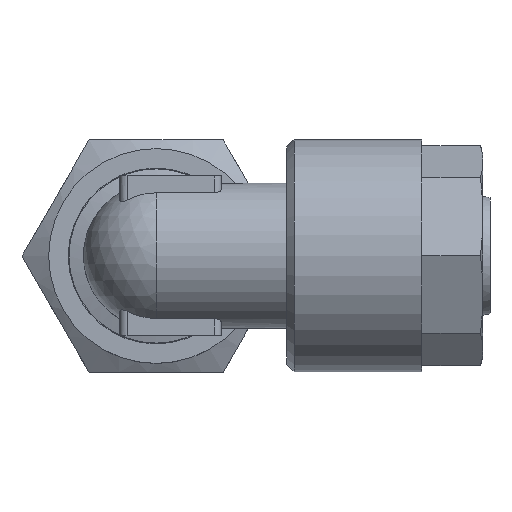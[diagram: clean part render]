
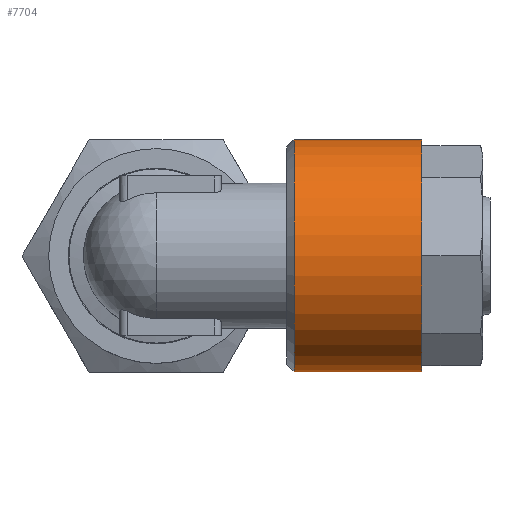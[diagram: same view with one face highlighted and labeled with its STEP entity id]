
A CAD part, top view. The second image highlights one B-rep face of the part: STEP entity #7704.
In plain terms, the highlighted cylindrical face has radius 8 mm (diameter 16 mm), a full revolution.
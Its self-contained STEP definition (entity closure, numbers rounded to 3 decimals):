
#2307=CYLINDRICAL_SURFACE('',#7482,8.);
#2428=ORIENTED_EDGE('',*,*,#3007,.F.);
#2429=ORIENTED_EDGE('',*,*,#3008,.T.);
#2753=CIRCLE('',#7481,8.);
#2754=CIRCLE('',#7483,8.);
#2847=VERTEX_POINT('',#4061);
#2848=VERTEX_POINT('',#4064);
#3007=EDGE_CURVE('',#2847,#2847,#2753,.T.);
#3008=EDGE_CURVE('',#2848,#2848,#2754,.T.);
#3191=EDGE_LOOP('',(#2428));
#3192=EDGE_LOOP('',(#2429));
#3336=FACE_BOUND('',#3191,.T.);
#3337=FACE_BOUND('',#3192,.T.);
#3571=DIRECTION('',(0.,1.,0.));
#3572=DIRECTION('',(0.,0.,-8.));
#3573=DIRECTION('',(0.,1.,0.));
#3574=DIRECTION('',(1.,0.,0.));
#3575=DIRECTION('',(0.,1.,0.));
#3576=DIRECTION('',(0.,0.,8.));
#4061=CARTESIAN_POINT('',(26.989,23.895,-8.));
#4062=CARTESIAN_POINT('',(26.989,23.895,0.));
#4063=CARTESIAN_POINT('',(26.989,15.095,0.));
#4064=CARTESIAN_POINT('',(26.989,15.095,8.));
#4065=CARTESIAN_POINT('',(26.989,15.095,0.));
#7481=AXIS2_PLACEMENT_3D('',#4062,#3571,#3572);
#7482=AXIS2_PLACEMENT_3D('',#4063,#3573,#3574);
#7483=AXIS2_PLACEMENT_3D('',#4065,#3575,#3576);
#7704=ADVANCED_FACE('',(#3336,#3337),#2307,.T.);
